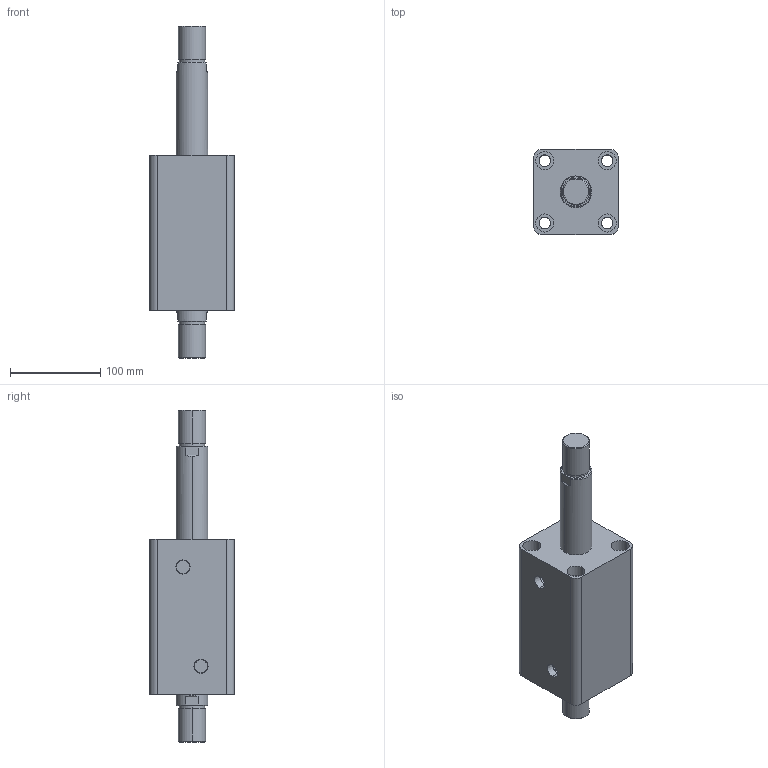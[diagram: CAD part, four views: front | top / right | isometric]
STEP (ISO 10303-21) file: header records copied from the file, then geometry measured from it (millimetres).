
FILE_DESCRIPTION (( 'STEP AP203' ), '1' );
FILE_NAME ('HTB-SW63-90W.STEP', '2019-10-07T10:09:07', ( '微软用户' ), ( '微软中国' ), 'SwSTEP 2.0', 'SolidWorks 2012', '' );
FILE_SCHEMA (( 'CONFIG_CONTROL_DESIGN' ));
Length unit declared in the file: millimetre
Products named in the file (3): HTB-SW63-90W; HTB-SW63-90W活塞杆; HTB-SW63-90掛极
Assembly tree (2 placements, depth 2):
  HTB-SW63-90W
    HTB-SW63-90掛极
    HTB-SW63-90W活塞杆
Bounding box: 94 x 94 x 368 mm (x, y, z)
Volume: 1366822.2 mm3; surface area: 187833.7 mm2
Topology: 2 solids, 2 shells, 108 faces, 240 edges, 156 vertices
Faces by surface type: cylinder 52, plane 36, torus 12, cone 8
Entity records: 3465 total; most frequent: CARTESIAN_POINT 645, DIRECTION 586, ORIENTED_EDGE 480, AXIS2_PLACEMENT_3D 249, EDGE_CURVE 240, VERTEX_POINT 156, EDGE_LOOP 138, CIRCLE 136
